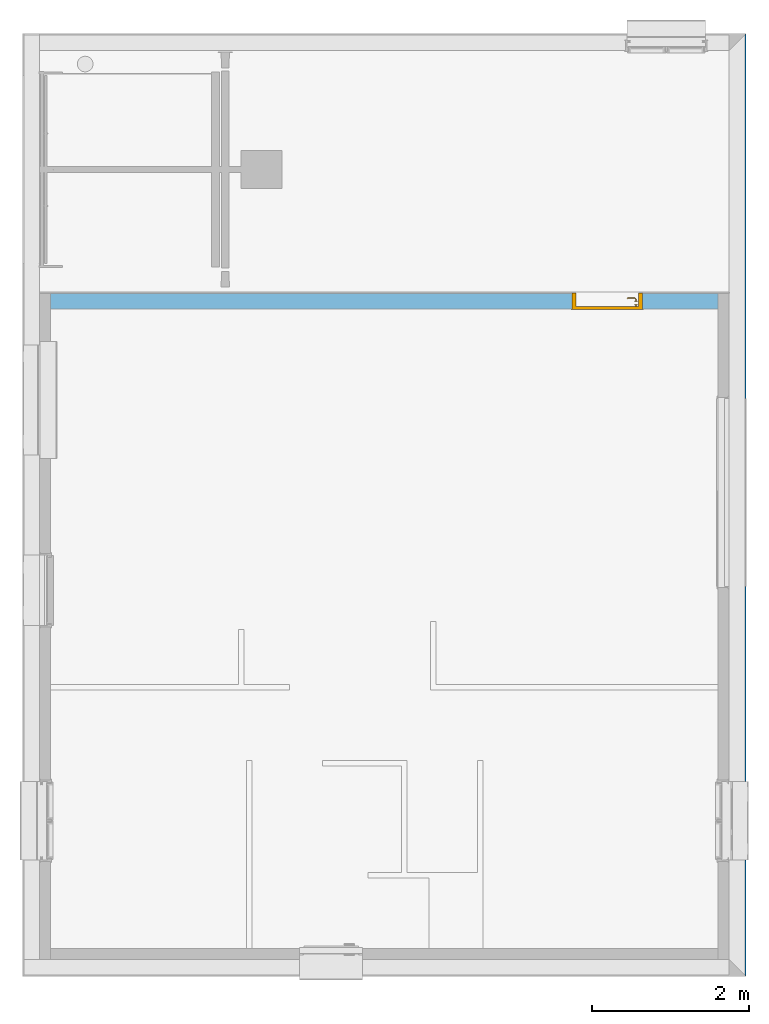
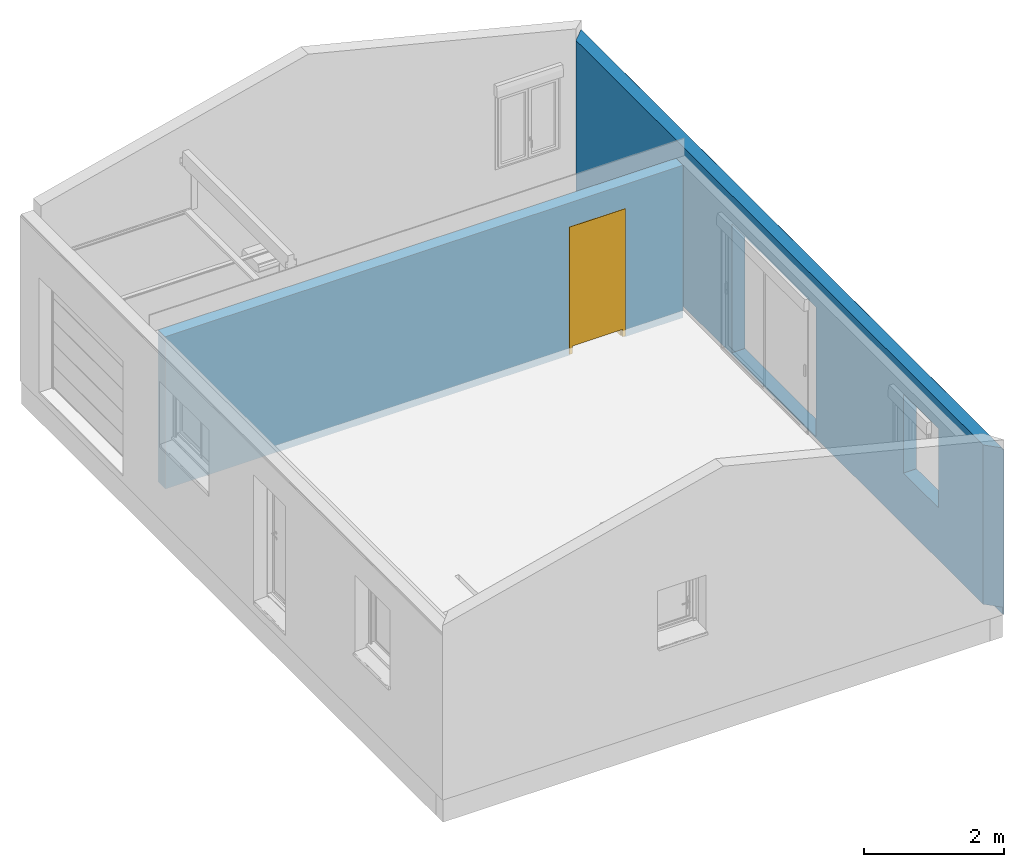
"""IFC2X3 building model written with IfcOpenShell, lengths in metres."""

import ifcopenshell
import ifcopenshell.guid

model = None  # the IFC model being written
_history = None  # IfcOwnerHistory: only IFC2X3 demands one
_inside = {}  # id of a spatial element -> (the spatial element, [elements in it])
_under = {}  # id of a project, library or spatial element -> (it, [spatial elements below it])
_declared = {}  # id of a project -> (the project, [libraries it declares])
_typed = {}  # id of a type object -> (the type object, [elements of that type])
_made_of = {}  # id of a material, layer set ... -> (it, [elements and type objects made of it])


def new_model(schema):
    """Start an empty IFC model of exactly this schema.

    Asked for "IFC4X3", IfcOpenShell would pick the latest addendum, in which some entities
    have other attributes; the version numbers below select the first issue.
    IFC2X3 requires an IfcOwnerHistory on every rooted entity: one is made here for all.
    """
    global model, _history
    if schema == "IFC4X3":
        model = ifcopenshell.file(schema_version=(4, 3, 0, 0))
    else:
        model = ifcopenshell.file(schema=schema)
    _inside.clear()
    _under.clear()
    _declared.clear()
    _typed.clear()
    _made_of.clear()
    _history = None
    if model.schema == "IFC2X3":
        org = make("IfcOrganization", Name="unknown")
        user = make(
            "IfcPersonAndOrganization",
            ThePerson=make("IfcPerson", FamilyName="unknown"),
            TheOrganization=org,
        )
        app = make(
            "IfcApplication",
            ApplicationDeveloper=org,
            Version="unknown",
            ApplicationFullName="unknown",
            ApplicationIdentifier="unknown",
        )
        _history = make(
            "IfcOwnerHistory",
            OwningUser=user,
            OwningApplication=app,
            ChangeAction="ADDED",
            CreationDate=0,
        )
    return model


def make(cls, **values):
    """One entity of the class cls with the attributes given. An attribute that is None is left unset."""
    return model.create_entity(
        cls, **{name: value for name, value in values.items() if value is not None}
    )


def entity(cls, *values):
    """Any entity or typed value of the class cls, its attributes in the order of the schema. None: left unset."""
    e = model.create_entity(cls)
    for i, value in enumerate(values):
        if value is not None:
            e[i] = value
    return e


def rooted(cls, **values):
    """An entity with a GlobalId (a new one), such as an element, a storey or a relation."""
    return make(cls, GlobalId=ifcopenshell.guid.new(), OwnerHistory=_history, **values)


def si_unit(unit_type, name, prefix=None):
    """IfcSIUnit, for example si_unit("LENGTHUNIT", "METRE", prefix="MILLI")."""
    return make("IfcSIUnit", UnitType=unit_type, Prefix=prefix, Name=name)


def converted_unit(unit_type, name, factor, base, dimensions=None, offset=None):
    """IfcConversionBasedUnit, such as the inch: factor (a typed value) times the base unit."""
    return make(
        "IfcConversionBasedUnit"
        if offset is None
        else "IfcConversionBasedUnitWithOffset",
        ConversionOffset=offset,
        Dimensions=None
        if dimensions is None
        else entity("IfcDimensionalExponents", *dimensions),
        UnitType=unit_type,
        Name=name,
        ConversionFactor=make(
            "IfcMeasureWithUnit", ValueComponent=factor, UnitComponent=base
        ),
    )


def derived_unit(unit_type, elements):
    """IfcDerivedUnit: a product of units, each with its exponent."""
    return make(
        "IfcDerivedUnit",
        Elements=[
            make("IfcDerivedUnitElement", Unit=unit, Exponent=power)
            for unit, power in elements
        ],
        UnitType=unit_type,
    )


def assignment(units):
    """IfcUnitAssignment: the units of a project."""
    return None if units is None else make("IfcUnitAssignment", Units=units)


def point(xyz):
    """IfcCartesianPoint."""
    return None if xyz is None else make("IfcCartesianPoint", Coordinates=xyz)


def direction(xyz):
    """IfcDirection."""
    return None if xyz is None else make("IfcDirection", DirectionRatios=xyz)


def frame(location, z_axis=None, x_axis=None):
    """IfcAxis2Placement3D, a coordinate frame: its origin and axes. An axis left out is left unset."""
    return make(
        "IfcAxis2Placement3D",
        Location=point(location),
        Axis=direction(z_axis),
        RefDirection=direction(x_axis),
    )


def frame_2d(location, x_axis=None):
    """IfcAxis2Placement2D, a coordinate frame in the plane: its origin and x axis."""
    return make(
        "IfcAxis2Placement2D", Location=point(location), RefDirection=direction(x_axis)
    )


def origin():
    """The frame at (0, 0, 0) with its axes left unset."""
    return frame((0.0, 0.0, 0.0))


def place(relative_to, where):
    """IfcLocalPlacement: puts the frame where relative to a parent placement (None: the world)."""
    return make(
        "IfcLocalPlacement", PlacementRelTo=relative_to, RelativePlacement=where
    )


def context(
    kind, dimensions, precision=None, world=None, true_north=None, identifier=None
):
    """IfcGeometricRepresentationContext, for example the 3D "Model" context."""
    return make(
        "IfcGeometricRepresentationContext",
        ContextIdentifier=identifier,
        ContextType=kind,
        CoordinateSpaceDimension=dimensions,
        Precision=precision,
        WorldCoordinateSystem=world,
        TrueNorth=true_north,
    )


def subcontext(parent, identifier, kind, view, scale=None):
    """IfcGeometricRepresentationSubContext, for example "Body" below "Model"."""
    return make(
        "IfcGeometricRepresentationSubContext",
        ContextIdentifier=identifier,
        ContextType=kind,
        ParentContext=parent,
        TargetScale=scale,
        TargetView=view,
    )


def project(units=None, contexts=None):
    """IfcProject with its units and contexts."""
    return rooted(
        "IfcProject",
        Name="project",
        RepresentationContexts=contexts,
        UnitsInContext=assignment(units),
    )


def spatial(cls, under=None, at=None, **own):
    """A site, building, storey or space (cls), placed at a placement, below another one or the project."""
    s = rooted(cls, ObjectPlacement=at, **own)
    if under is not None:
        _under.setdefault(under.id(), (under, []))[1].append(s)
    return s


def profile(cls, at=None, kind="AREA", **sizes):
    """A parametric profile (cls). Its sizes go by their IFC names, for example OverallWidth=200.0."""
    return make(cls, ProfileType=kind, Position=at, **sizes)


def rectangle(**sizes):
    """IfcRectangleProfileDef."""
    return profile("IfcRectangleProfileDef", **sizes)


def extrude(swept, where, along, depth):
    """IfcExtrudedAreaSolid: the profile swept, set in the frame where, extruded along a direction by depth."""
    return make(
        "IfcExtrudedAreaSolid",
        SweptArea=swept,
        Position=where,
        ExtrudedDirection=direction(along),
        Depth=depth,
    )


def faces_of(points, faces, orient=None, outer=None):
    """IfcFace entities. A face is a list of loops; a loop is a list of indices into points, from 0.

    orient and outer hold one flag for each loop. By default every Orientation is true, the
    first loop of a face is its IfcFaceOuterBound and the others are IfcFaceBound.
    """
    made = []
    for i, loops in enumerate(faces):
        bounds = []
        for j, loop in enumerate(loops):
            is_outer = j == 0 if outer is None else outer[i][j]
            bounds.append(
                make(
                    "IfcFaceOuterBound" if is_outer else "IfcFaceBound",
                    Bound=make("IfcPolyLoop", Polygon=[points[k] for k in loop]),
                    Orientation=True if orient is None else orient[i][j],
                )
            )
        made.append(make("IfcFace", Bounds=bounds))
    return made


def faceted_brep(points, faces, orient=None, outer=None, voids=None):
    """IfcFacetedBrep: a solid bounded by flat faces; with voids (closed shells), ...WithVoids."""
    shared = [point(p) for p in points]
    hull = make("IfcClosedShell", CfsFaces=faces_of(shared, faces, orient, outer))
    if voids is None:
        return make("IfcFacetedBrep", Outer=hull)
    return make(
        "IfcFacetedBrepWithVoids",
        Outer=hull,
        Voids=[
            make(cls, CfsFaces=faces_of(shared, fs, o, b)) for cls, fs, o, b in voids
        ],
    )


def shape(context_of_items, identifier, shape_type, items):
    """IfcShapeRepresentation: the items that make up one representation, for example the "Body"."""
    return make(
        "IfcShapeRepresentation",
        ContextOfItems=context_of_items,
        RepresentationIdentifier=identifier,
        RepresentationType=shape_type,
        Items=items,
    )


def source(mapping_origin, context_of_items, identifier, shape_type, items):
    """IfcRepresentationMap: a shape defined once, which mapped items show again and again."""
    return make(
        "IfcRepresentationMap",
        MappingOrigin=mapping_origin,
        MappedRepresentation=shape(context_of_items, identifier, shape_type, items),
    )


def transform(
    local_origin,
    x_axis=None,
    y_axis=None,
    z_axis=None,
    scale=None,
    scale2=None,
    scale3=None,
    uniform=True,
):
    """IfcCartesianTransformationOperator3D, or its non-uniform kind. x_axis, y_axis, z_axis: its Axis1, 2, 3."""
    if uniform:
        return make(
            "IfcCartesianTransformationOperator3D",
            Axis1=direction(x_axis),
            Axis2=direction(y_axis),
            LocalOrigin=point(local_origin),
            Scale=scale,
            Axis3=direction(z_axis),
        )
    return make(
        "IfcCartesianTransformationOperator3DnonUniform",
        Axis1=direction(x_axis),
        Axis2=direction(y_axis),
        LocalOrigin=point(local_origin),
        Scale=scale,
        Axis3=direction(z_axis),
        Scale2=scale2,
        Scale3=scale3,
    )


def mapped(mapping_source, mapping_target):
    """IfcMappedItem: shows the shape of a source again, moved by a transform."""
    return make(
        "IfcMappedItem", MappingSource=mapping_source, MappingTarget=mapping_target
    )


def material(Name=None, Category=None):
    """IfcMaterial."""
    return make("IfcMaterial", Name=Name, Category=Category)


def material_list(materials):
    """IfcMaterialList."""
    return make("IfcMaterialList", Materials=materials)


def layer(
    of_material, thickness, ventilated=None, Name=None, Category=None, Priority=None
):
    """IfcMaterialLayer: one layer of a wall or slab, of a material (None: an air gap)."""
    return make(
        "IfcMaterialLayer",
        Material=of_material,
        LayerThickness=thickness,
        IsVentilated=ventilated,
        Name=Name,
        Category=Category,
        Priority=Priority,
    )


def layer_set(layers, Name=None):
    """IfcMaterialLayerSet."""
    return make("IfcMaterialLayerSet", MaterialLayers=layers, LayerSetName=Name)


def layer_usage(for_layer_set, set_direction, sense, offset, extent=None):
    """IfcMaterialLayerSetUsage: how a layer set lies in its element."""
    return make(
        "IfcMaterialLayerSetUsage",
        ForLayerSet=for_layer_set,
        LayerSetDirection=set_direction,
        DirectionSense=sense,
        OffsetFromReferenceLine=offset,
        ReferenceExtent=extent,
    )


def made_of(thing, what):
    """Note that an element or type object is made of a material, layer set ...; save() writes the relation."""
    if what is not None:
        _made_of.setdefault(what.id(), (what, []))[1].append(thing)
    return thing


def type_object(cls, material=None, **own):
    """A type object (cls), such as IfcWallType, which elements share."""
    return made_of(rooted(cls, **own), material)


def type_shapes(of_type, sources):
    """Give a type object the sources (RepresentationMaps) that its elements show as mapped items."""
    of_type.RepresentationMaps = sources


def element(
    cls,
    number,
    at=None,
    inside=None,
    cuts=None,
    type_object=None,
    material=None,
    context=None,
    identifier="Body",
    shape_type=None,
    held_by="IfcProductDefinitionShape",
    body=None,
    shapes=None,
    **own,
):
    """One element of the class cls, such as IfcWall. Its Tag is "e" and its number.

    at: its placement. inside: the storey or other place that contains it. cuts: it is an
    opening in that element (IfcRelVoidsElement). A single representation is given by context,
    identifier, shape_type and body (its items); several are given by shapes. held_by: the class
    of the entity that holds the representations. save() writes the other relations.
    """
    e = rooted(cls, Tag="e%d" % number, ObjectPlacement=at, **own)
    if body is not None:
        shapes = [shape(context, identifier, shape_type, body)]
    if shapes is not None:
        e.Representation = make(held_by, Representations=shapes)
    if inside is not None:
        _inside.setdefault(inside.id(), (inside, []))[1].append(e)
    if cuts is not None:
        rooted(
            "IfcRelVoidsElement", RelatingBuildingElement=cuts, RelatedOpeningElement=e
        )
    if type_object is not None:
        _typed.setdefault(type_object.id(), (type_object, []))[1].append(e)
    return made_of(e, material)


def fill(opening, filler):
    """IfcRelFillsElement: the door or window that sits in an opening."""
    return rooted(
        "IfcRelFillsElement",
        RelatingOpeningElement=opening,
        RelatedBuildingElement=filler,
    )


def aggregate(whole, parts):
    """IfcRelAggregates: a whole, such as a stair, and the parts it consists of."""
    return rooted("IfcRelAggregates", RelatingObject=whole, RelatedObjects=parts)


def save(model, path):
    """Write the relations noted so far, then the file.

    IfcRelAggregates (storeys below a building ...), IfcRelContainedInSpatialStructure (elements
    in a storey), IfcRelDefinesByType, IfcRelAssociatesMaterial and IfcRelDeclares: one each for
    every whole, place, type object, material and project.
    """
    for whole, parts in _under.values():
        aggregate(whole, parts)
    for where, things in _inside.values():
        rooted(
            "IfcRelContainedInSpatialStructure",
            RelatedElements=things,
            RelatingStructure=where,
        )
    for kind, things in _typed.values():
        rooted("IfcRelDefinesByType", RelatedObjects=things, RelatingType=kind)
    for what, things in _made_of.values():
        rooted("IfcRelAssociatesMaterial", RelatedObjects=things, RelatingMaterial=what)
    for by, libraries in _declared.values():
        rooted("IfcRelDeclares", RelatingContext=by, RelatedDefinitions=libraries)
    model.write(path)


model = new_model("IFC2X3")

# Units and contexts
model_context = context("Model", 3, precision=1e-05, world=origin(), true_north=direction((6.123031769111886e-17, 1.0)))
body_context = subcontext(model_context, "Body", "Model", "MODEL_VIEW")
ifc_project = project(units=[si_unit("LENGTHUNIT", "METRE"), si_unit("AREAUNIT", "SQUARE_METRE"), si_unit("VOLUMEUNIT", "CUBIC_METRE"), converted_unit("PLANEANGLEUNIT", "DEGREE", entity("IfcRatioMeasure", 0.017453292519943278), si_unit("PLANEANGLEUNIT", "RADIAN"), dimensions=[0, 0, 0, 0, 0, 0, 0]), si_unit("MASSUNIT", "GRAM", prefix="KILO"), derived_unit("MASSDENSITYUNIT", [(si_unit("MASSUNIT", "GRAM", prefix="KILO"), 1), (si_unit("LENGTHUNIT", "METRE"), -3)]), derived_unit("IONCONCENTRATIONUNIT", [(si_unit("MASSUNIT", "GRAM", prefix="KILO"), 1), (si_unit("LENGTHUNIT", "METRE"), -3)]), derived_unit("MOMENTOFINERTIAUNIT", [(si_unit("LENGTHUNIT", "METRE"), 4)]), si_unit("TIMEUNIT", "SECOND"), si_unit("FREQUENCYUNIT", "HERTZ"), si_unit("THERMODYNAMICTEMPERATUREUNIT", "DEGREE_CELSIUS"), derived_unit("THERMALTRANSMITTANCEUNIT", [(si_unit("MASSUNIT", "GRAM", prefix="KILO"), 1), (si_unit("THERMODYNAMICTEMPERATUREUNIT", "KELVIN"), -1), (si_unit("TIMEUNIT", "SECOND"), -3)]), derived_unit("THERMALCONDUCTANCEUNIT", [(si_unit("MASSUNIT", "GRAM", prefix="KILO"), 1), (si_unit("THERMODYNAMICTEMPERATUREUNIT", "KELVIN"), -1), (si_unit("TIMEUNIT", "SECOND"), -3), (si_unit("LENGTHUNIT", "METRE"), 1)]), derived_unit("VOLUMETRICFLOWRATEUNIT", [(si_unit("LENGTHUNIT", "METRE"), 3), (si_unit("TIMEUNIT", "SECOND"), -1)]), derived_unit("MASSFLOWRATEUNIT", [(si_unit("MASSUNIT", "GRAM", prefix="KILO"), 1), (si_unit("TIMEUNIT", "SECOND"), -1)]), derived_unit("ROTATIONALFREQUENCYUNIT", [(si_unit("TIMEUNIT", "SECOND"), -1)]), si_unit("ELECTRICCURRENTUNIT", "AMPERE"), si_unit("ELECTRICVOLTAGEUNIT", "VOLT"), si_unit("POWERUNIT", "WATT"), si_unit("FORCEUNIT", "NEWTON", prefix="KILO"), si_unit("ILLUMINANCEUNIT", "LUX"), si_unit("LUMINOUSFLUXUNIT", "LUMEN"), si_unit("LUMINOUSINTENSITYUNIT", "CANDELA"), derived_unit("USERDEFINED", [(si_unit("MASSUNIT", "GRAM", prefix="KILO"), -1), (si_unit("LENGTHUNIT", "METRE"), -2), (si_unit("TIMEUNIT", "SECOND"), 3), (si_unit("LUMINOUSFLUXUNIT", "LUMEN"), 1)]), derived_unit("USERDEFINED", [(si_unit("MASSUNIT", "GRAM", prefix="KILO"), 1), (si_unit("TIMEUNIT", "SECOND"), -3), (si_unit("LENGTHUNIT", "METRE"), 3), (si_unit("ELECTRICCURRENTUNIT", "AMPERE"), -2)]), derived_unit("SOUNDPOWERUNIT", [(si_unit("MASSUNIT", "GRAM", prefix="KILO"), 1), (si_unit("TIMEUNIT", "SECOND"), -3), (si_unit("LENGTHUNIT", "METRE"), 2)]), derived_unit("SOUNDPRESSUREUNIT", [(si_unit("MASSUNIT", "GRAM", prefix="KILO"), 1), (si_unit("LENGTHUNIT", "METRE"), -1), (si_unit("TIMEUNIT", "SECOND"), -2)]), derived_unit("LINEARVELOCITYUNIT", [(si_unit("LENGTHUNIT", "METRE"), 1), (si_unit("TIMEUNIT", "SECOND"), -1)]), si_unit("PRESSUREUNIT", "PASCAL"), derived_unit("USERDEFINED", [(si_unit("MASSUNIT", "GRAM", prefix="KILO"), 1), (si_unit("LENGTHUNIT", "METRE"), -2), (si_unit("TIMEUNIT", "SECOND"), -2)]), derived_unit("LINEARFORCEUNIT", [(si_unit("MASSUNIT", "GRAM", prefix="KILO"), 1), (si_unit("TIMEUNIT", "SECOND"), -2)]), derived_unit("PLANARFORCEUNIT", [(si_unit("MASSUNIT", "GRAM", prefix="KILO"), 1), (si_unit("LENGTHUNIT", "METRE"), -1), (si_unit("TIMEUNIT", "SECOND"), -2)]), derived_unit("SPECIFICHEATCAPACITYUNIT", [(si_unit("THERMODYNAMICTEMPERATUREUNIT", "KELVIN"), -1), (si_unit("LENGTHUNIT", "METRE"), 2), (si_unit("TIMEUNIT", "SECOND"), -2)]), derived_unit("HEATINGVALUEUNIT", [(si_unit("LENGTHUNIT", "METRE"), 2), (si_unit("TIMEUNIT", "SECOND"), -2)]), derived_unit("VAPORPERMEABILITYUNIT", [(si_unit("LENGTHUNIT", "METRE"), -1), (si_unit("TIMEUNIT", "SECOND"), 1)]), derived_unit("DYNAMICVISCOSITYUNIT", [(si_unit("MASSUNIT", "GRAM", prefix="KILO"), 1), (si_unit("TIMEUNIT", "SECOND"), -1), (si_unit("LENGTHUNIT", "METRE"), -1)]), derived_unit("THERMALEXPANSIONCOEFFICIENTUNIT", [(si_unit("THERMODYNAMICTEMPERATUREUNIT", "KELVIN"), -1)]), derived_unit("MODULUSOFELASTICITYUNIT", [(si_unit("MASSUNIT", "GRAM", prefix="KILO"), 1), (si_unit("LENGTHUNIT", "METRE"), -1), (si_unit("TIMEUNIT", "SECOND"), -2)]), derived_unit("ISOTHERMALMOISTURECAPACITYUNIT", [(si_unit("LENGTHUNIT", "METRE"), 3), (si_unit("MASSUNIT", "GRAM", prefix="KILO"), -1)]), derived_unit("MOISTUREDIFFUSIVITYUNIT", [(si_unit("TIMEUNIT", "SECOND"), -1), (si_unit("LENGTHUNIT", "METRE"), 2)])], contexts=[model_context])

# Site, building, storey
site_placement = place(None, frame((1.2553507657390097, -0.6266432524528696, -1.0397761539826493), z_axis=(0.0, 0.0, 1.0), x_axis=(-1.0, 0.0, 0.0)))
site = spatial("IfcSite", under=ifc_project, at=site_placement, Name="Default", CompositionType="ELEMENT")
building_placement = place(site_placement, origin())
building = spatial("IfcBuilding", under=site, at=building_placement, Name="MAISON D'HABITATION", CompositionType="ELEMENT")
storey_1_placement = place(building_placement, frame((0.0, 0.0, 0.38977615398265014)))
storey_1 = spatial("IfcBuildingStorey", under=building, at=storey_1_placement, Name="Niveau dessus semelle filante", CompositionType="ELEMENT", Elevation=0.38977615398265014)

# Wall
ifc_material_1 = material(Name="Enduit gratté")
ifc_layer_1 = layer(ifc_material_1, 0.018)
ifc_material_2 = material(Name="Agglo creux, parpaing")
ifc_layer_2 = layer(ifc_material_2, 0.2)
ifc_layer_set_1 = layer_set([ifc_layer_1, ifc_layer_2], Name="Mur de base:parpaing+enduit 18cm")
wall_type_1 = type_object("IfcWallType", Name="Mur de base:parpaing+enduit 18cm", PredefinedType="STANDARD", material=ifc_layer_set_1)
wall_1_placement = place(storey_1_placement, frame((-4.788866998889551, -8.681816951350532, 0.39999999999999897), z_axis=(0.0, 0.0, 1.0), x_axis=(0.0, 1.0, 0.0)))
element("IfcWall", 1, at=wall_1_placement, inside=storey_1, type_object=wall_type_1, Name="Mur de base:parpaing+enduit 18cm", ObjectType="Mur de base:parpaing+enduit 18cm", context=body_context, shape_type="Brep", body=[
    faceted_brep([(0.21800000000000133, -0.10900000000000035, 0.12000000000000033), (3.2999999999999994, -0.10900000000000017, 0.12000000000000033), (3.3179999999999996, -0.10900000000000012, 0.12000000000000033), (11.818000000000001, -0.10900000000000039, 0.12000000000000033), (11.818000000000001, -0.10900000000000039, 2.889999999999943), (0.21800000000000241, -0.10900000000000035, 2.889999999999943), (4.658000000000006, -0.1090000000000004, 0.2500000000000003), (4.658000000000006, -0.1090000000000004, 2.3999999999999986), (7.058000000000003, -0.10900000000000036, 2.3999999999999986), (7.058000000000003, -0.10900000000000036, 0.2500000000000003), (7.058000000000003, -0.10900000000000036, 0.1499999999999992), (4.658000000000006, -0.1090000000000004, 0.1499999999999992), (9.548000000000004, -0.10900000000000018, 2.3999999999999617), (10.548000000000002, -0.10899999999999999, 2.3999999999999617), (10.548000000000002, -0.10899999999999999, 1.1244999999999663), (10.548000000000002, -0.10899999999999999, 1.0244999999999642), (9.548000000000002, -0.10900000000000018, 1.0244999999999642), (9.548000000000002, -0.10900000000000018, 1.1244999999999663), (12.036000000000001, 0.10900000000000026, 2.866499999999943), (12.036000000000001, 0.10900000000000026, 0.0), (0.0, 0.10900000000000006, 0.0), (0.0, 0.10900000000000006, 2.866499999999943), (7.058000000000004, 0.10899999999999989, 2.3999999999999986), (4.658000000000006, 0.10899999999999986, 2.3999999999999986), (4.658000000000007, 0.10899999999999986, 0.1499999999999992), (7.058000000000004, 0.10899999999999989, 0.1499999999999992), (10.548000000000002, 0.10899999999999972, 2.3999999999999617), (9.548000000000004, 0.10900000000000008, 2.399999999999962), (9.548000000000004, 0.10900000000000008, 1.0244999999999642), (10.548000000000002, 0.10899999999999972, 1.0244999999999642), (12.018, 0.09099999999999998, 0.12000000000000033), (12.018, 0.09099999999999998, 0.0), (12.018, 0.09099999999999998, 2.866499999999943), (12.018, 0.09099999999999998, 2.889999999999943), (0.018000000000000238, 0.09099999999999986, 0.12000000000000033), (0.017999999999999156, 0.09099999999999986, 0.0), (0.018000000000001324, 0.09099999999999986, 2.889999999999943), (0.017999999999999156, 0.09100000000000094, 2.866499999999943)], [[[0, 1, 2, 3, 4, 5], [6, 7, 8, 9, 10, 11], [12, 13, 14, 15, 16, 17]], [[18, 19, 20, 21], [22, 23, 24, 25], [26, 27, 28, 29]], [[4, 3, 30, 31, 19, 18, 32, 33]], [[7, 23, 22, 8]], [[23, 7, 6, 11, 24]], [[8, 22, 25, 10, 9]], [[24, 11, 10, 25]], [[26, 13, 12, 27]], [[27, 12, 17, 16, 28]], [[13, 26, 29, 15, 14]], [[28, 16, 15, 29]], [[3, 2, 1, 0, 34, 30]], [[30, 34, 35, 31]], [[0, 5, 36, 37, 21, 20, 35, 34]], [[20, 19, 31, 35]], [[5, 4, 33, 36]], [[36, 33, 32, 37]], [[32, 18, 21, 37]]]),
])

# Wall, opening
ifc_material_3 = material(Name="Isolation 0.18m")
ifc_layer_3 = layer(ifc_material_3, 0.18)
ifc_material_4 = material(Name="Plaque de mur de gypse")
ifc_layer_4 = layer(ifc_material_4, 0.013)
ifc_material_5 = material(Name="Peinture")
ifc_layer_5 = layer(ifc_material_5, 0.007)
ifc_layer_set_2 = layer_set([ifc_layer_3, ifc_layer_4, ifc_layer_5], Name="Mur de base:isolation+placo+peinture 20cm")
ifc_layer_usage = layer_usage(ifc_layer_set_2, "AXIS2", "POSITIVE", -0.1)
wall_type_2 = type_object("IfcWallType", Name="Mur de base:isolation+placo+peinture 20cm", PredefinedType="STANDARD", material=ifc_layer_set_2)
wall_2_placement = place(storey_1_placement, frame((-4.539866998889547, -5.263816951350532, 0.5199999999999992)))
wall_2 = element("IfcWallStandardCase", 2, at=wall_2_placement, inside=storey_1, type_object=wall_type_2, material=ifc_layer_usage, Name="Mur de base:isolation+placo+peinture 20cm", ObjectType="Mur de base:isolation+placo+peinture 20cm", context=body_context, shape_type="SweptSolid", body=[
    extrude(rectangle(XDim=8.519999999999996, YDim=0.2, at=frame_2d((4.259999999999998, 2.7755575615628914e-17), x_axis=(1.0, 0.0))), origin(), (0.0, 0.0, 1.0), 2.6499999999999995),
])
opening_placement = place(wall_2_placement, frame((0.9650000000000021, -0.1000000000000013, 0.0)))
opening = element("IfcOpeningElement", 3, at=opening_placement, cuts=wall_2, Name="porte intérieur Simple reservation 13 cm:80 x 204:1", ObjectType="Opening", context=body_context, shape_type="SweptSolid", body=[
    extrude(rectangle(XDim=2.224999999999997, YDim=0.8999999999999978, at=frame_2d((1.1124999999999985, 0.4499999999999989), x_axis=(1.0, 0.0))), frame((0.0, 0.0, 0.0), z_axis=(0.0, 1.0, 0.0), x_axis=(0.0, 0.0, 1.0)), (0.0, 0.0, 1.0), 0.2),
])

# Storey
storey_2_placement = place(building_placement, frame((0.0, 0.0, 1.0397761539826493)))
storey_2 = spatial("IfcBuildingStorey", under=building, at=storey_2_placement, Name="site", CompositionType="ELEMENT", Elevation=1.0397761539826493)

# Door
ifc_material_6 = material(Name="Poignée Porte")
ifc_material_7 = material(Name="Dormants Portes")
ifc_material_8 = material(Name="Panneaux Portes")
ifc_material_list = material_list([ifc_material_6, ifc_material_7, ifc_material_8])
door_style = type_object("IfcDoorStyle", Name="porte intérieur Simple reservation 13 cm:80 x 204", ConstructionType="NOTDEFINED", OperationType="NOTDEFINED", ParameterTakesPrecedence=False, Sizeable=False, material=ifc_material_list)
shared_shape = source(origin(), body_context, "Body", "Brep", [
    faceted_brep([(0.8129747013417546, 0.10200000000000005, 1.0422195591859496), (0.8170252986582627, 0.10200000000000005, 1.0422195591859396), (0.8210000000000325, 0.10200000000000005, 1.0429999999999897), (0.8210000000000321, 0.10200000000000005, 1.0569999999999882), (0.8170252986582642, 0.10200000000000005, 1.0577804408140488), (0.812974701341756, 0.10200000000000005, 1.0577804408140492), (0.8089999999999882, 0.10200000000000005, 1.0569999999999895), (0.8089999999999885, 0.10200000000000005, 1.0430000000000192), (0.8089999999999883, 0.12448520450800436, 1.0569999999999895), (0.8089999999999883, 0.12448520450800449, 1.0430000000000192), (0.8129747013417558, 0.12613157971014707, 1.0577804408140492), (0.8170252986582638, 0.12780939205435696, 1.0577804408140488), (0.80083890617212, 0.14399578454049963, 1.0577804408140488), (0.7991610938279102, 0.1399451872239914, 1.0577804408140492), (0.7157931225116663, 0.1399451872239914, 1.0577804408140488), (0.7141153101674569, 0.14399578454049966, 1.0577804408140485), (0.7064510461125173, 0.1363315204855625, 1.0577804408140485), (0.7093152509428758, 0.13346731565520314, 1.0577804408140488), (0.8210000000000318, 0.1294557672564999, 1.0569999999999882), (0.8210000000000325, 0.12945576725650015, 1.0429999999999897), (0.8170252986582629, 0.12780939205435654, 1.0422195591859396), (0.8129747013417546, 0.12613157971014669, 1.0422195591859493), (0.7991610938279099, 0.13994518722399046, 1.0422195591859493), (0.8008389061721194, 0.1439957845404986, 1.0422195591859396), (0.7141153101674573, 0.1439957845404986, 1.0422195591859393), (0.7157931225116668, 0.13994518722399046, 1.042219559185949), (0.7093152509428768, 0.13346731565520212, 1.0422195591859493), (0.7064510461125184, 0.13633152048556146, 1.0422195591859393), (0.7975147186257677, 0.13597048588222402, 1.0430000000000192), (0.7975147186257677, 0.1359704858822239, 1.0569999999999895), (0.8024852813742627, 0.14797048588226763, 1.0569999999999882), (0.8024852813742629, 0.14797048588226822, 1.0429999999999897), (0.7574771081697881, 0.13597048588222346, 1.056999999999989), (0.7174394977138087, 0.1359704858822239, 1.056999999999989), (0.7174394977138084, 0.13597048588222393, 1.0430000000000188), (0.7574770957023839, 0.13597048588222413, 1.043000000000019), (0.7574771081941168, 0.14212492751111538, 1.0578781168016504), (0.7523994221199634, 0.14797048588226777, 1.0569999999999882), (0.7124689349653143, 0.14797048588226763, 1.056999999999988), (0.7625547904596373, 0.14797048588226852, 1.0429999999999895), (0.712468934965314, 0.14797048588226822, 1.0429999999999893), (0.7574771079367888, 0.14212492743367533, 1.0421218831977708), (0.703640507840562, 0.13914205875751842, 1.0569999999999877), (0.7036405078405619, 0.13914205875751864, 1.0429999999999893), (0.7121257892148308, 0.13065677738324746, 1.0430000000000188), (0.712125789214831, 0.13065677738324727, 1.056999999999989)], [[[0, 1, 2, 3, 4, 5, 6, 7]], [[8, 9, 7, 6]], [[5, 10, 8, 6]], [[5, 4, 11, 12, 13, 10]], [[14, 15, 16, 17]], [[3, 18, 11, 4]], [[18, 3, 2, 19]], [[2, 1, 20, 19]], [[1, 0, 21, 22, 23, 20]], [[24, 25, 26, 27]], [[0, 7, 9, 21]], [[28, 9, 8, 29]], [[8, 10, 13, 29]], [[18, 30, 12, 11]], [[31, 30, 18, 19]], [[19, 20, 23, 31]], [[21, 9, 28, 22]], [[28, 29, 32, 33, 34, 35]], [[36, 32, 13]], [[37, 38, 15]], [[37, 12, 30]], [[36, 12, 37]], [[14, 32, 36]], [[36, 15, 14]], [[29, 13, 32]], [[32, 14, 33]], [[12, 36, 13]], [[15, 36, 37]], [[30, 31, 39, 40, 38, 37]], [[23, 41, 39]], [[24, 39, 41]], [[39, 31, 23]], [[39, 24, 40]], [[22, 35, 41]], [[41, 23, 22]], [[41, 35, 25]], [[35, 22, 28]], [[34, 25, 35]], [[24, 41, 25]], [[17, 16, 42, 43, 27, 26, 44, 45]], [[44, 34, 33, 45]], [[33, 14, 17, 45]], [[15, 38, 42, 16]], [[43, 42, 38, 40]], [[24, 27, 43, 40]], [[34, 44, 26, 25]]]),
    faceted_brep([(0.8129747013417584, 0.052000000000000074, 1.057780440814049), (0.8170252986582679, 0.052000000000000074, 1.0577804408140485), (0.8210000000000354, 0.052000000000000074, 1.0569999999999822), (0.8210000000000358, 0.052000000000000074, 1.0429999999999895), (0.8170252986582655, 0.052000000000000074, 1.0422195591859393), (0.8129747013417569, 0.052000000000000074, 1.0422195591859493), (0.8089999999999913, 0.052000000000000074, 1.0430000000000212), (0.8089999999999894, 0.052000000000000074, 1.0569999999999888), (0.8170252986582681, 0.0259954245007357, 1.0577804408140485), (0.821000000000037, 0.024349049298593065, 1.0569999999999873), (0.8129747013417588, 0.027673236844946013, 1.057780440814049), (0.7992986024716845, 0.013997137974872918, 1.057780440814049), (0.8009764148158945, 0.009946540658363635, 1.0577804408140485), (0.7141424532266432, 0.009946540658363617, 1.0577804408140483), (0.7158202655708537, 0.013997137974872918, 1.0577804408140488), (0.7093423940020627, 0.020475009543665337, 1.0577804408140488), (0.7064781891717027, 0.01761080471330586, 1.0577804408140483), (0.8089999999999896, 0.029319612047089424, 1.0569999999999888), (0.8089999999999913, 0.029319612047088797, 1.0430000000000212), (0.8129747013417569, 0.027673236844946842, 1.0422195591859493), (0.8170252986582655, 0.025995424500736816, 1.0422195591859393), (0.8009764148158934, 0.009946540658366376, 1.0422195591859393), (0.7992986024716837, 0.013997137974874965, 1.0422195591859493), (0.7158202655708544, 0.013997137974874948, 1.042219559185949), (0.7141424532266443, 0.009946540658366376, 1.0422195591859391), (0.7064781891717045, 0.017610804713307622, 1.0422195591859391), (0.7093423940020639, 0.020475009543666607, 1.042219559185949), (0.8210000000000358, 0.024349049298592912, 1.0429999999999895), (0.8026227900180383, 0.005971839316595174, 1.0569999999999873), (0.7976522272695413, 0.01797183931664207, 1.0569999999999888), (0.797652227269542, 0.017971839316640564, 1.0430000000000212), (0.8026227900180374, 0.005971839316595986, 1.0429999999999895), (0.7575594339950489, 0.01181719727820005, 1.0578781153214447), (0.76269230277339, 0.005971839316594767, 1.0569999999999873), (0.7124960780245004, 0.0059718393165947, 1.056999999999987), (0.7575594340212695, 0.017971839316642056, 1.0569999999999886), (0.717466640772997, 0.017971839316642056, 1.0569999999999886), (0.7575594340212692, 0.01797183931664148, 1.0430000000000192), (0.7174666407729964, 0.017971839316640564, 1.043000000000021), (0.7575594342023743, 0.011817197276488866, 1.0421218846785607), (0.7524265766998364, 0.005971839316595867, 1.0429999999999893), (0.7124960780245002, 0.005971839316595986, 1.0429999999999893), (0.7121529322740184, 0.02328554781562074, 1.043000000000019), (0.7036676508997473, 0.014800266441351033, 1.0429999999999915), (0.7036676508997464, 0.014800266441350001, 1.0569999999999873), (0.7121529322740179, 0.02328554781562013, 1.0569999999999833)], [[[0, 1, 2, 3, 4, 5, 6, 7]], [[2, 1, 8, 9]], [[1, 0, 10, 11, 12, 8]], [[13, 14, 15, 16]], [[0, 7, 17, 10]], [[18, 17, 7, 6]], [[5, 19, 18, 6]], [[5, 4, 20, 21, 22, 19]], [[23, 24, 25, 26]], [[3, 27, 20, 4]], [[9, 27, 3, 2]], [[9, 8, 12, 28]], [[10, 17, 29, 11]], [[30, 29, 17, 18]], [[18, 19, 22, 30]], [[20, 27, 31, 21]], [[28, 31, 27, 9]], [[12, 32, 33]], [[13, 33, 32]], [[33, 28, 12]], [[33, 13, 34]], [[11, 35, 32]], [[32, 12, 11]], [[32, 35, 14]], [[35, 11, 29]], [[36, 14, 35]], [[13, 32, 14]], [[30, 37, 38, 36, 35, 29]], [[39, 37, 22]], [[40, 41, 24]], [[40, 21, 31]], [[39, 21, 40]], [[23, 37, 39]], [[39, 24, 23]], [[30, 22, 37]], [[37, 23, 38]], [[21, 39, 22]], [[24, 39, 40]], [[31, 28, 33, 34, 41, 40]], [[42, 26, 25, 43, 44, 16, 15, 45]], [[13, 16, 44, 34]], [[36, 45, 15, 14]], [[42, 45, 36, 38]], [[38, 23, 26, 42]], [[24, 41, 43, 25]], [[44, 43, 41, 34]]]),
    faceted_brep([(0.835000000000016, 0.097, 0.9200000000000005), (0.8350000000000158, 0.097, 1.1299999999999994), (0.8253527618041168, 0.09699999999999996, 1.1339960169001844), (0.8150000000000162, 0.09699999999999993, 1.1353589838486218), (0.8046472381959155, 0.09699999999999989, 1.1339960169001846), (0.7950000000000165, 0.09699999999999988, 1.1299999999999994), (0.7950000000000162, 0.09699999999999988, 0.9199999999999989), (0.8046472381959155, 0.09699999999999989, 0.9160039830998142), (0.8150000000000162, 0.09699999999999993, 0.9146410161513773), (0.8253527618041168, 0.09699999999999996, 0.9160039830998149), (0.8150000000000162, 0.10199999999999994, 1.1353589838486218), (0.8253527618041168, 0.10199999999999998, 1.1339960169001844), (0.8350000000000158, 0.102, 1.1299999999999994), (0.8350000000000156, 0.102, 0.9200000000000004), (0.8253527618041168, 0.10199999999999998, 0.9160039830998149), (0.8150000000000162, 0.10199999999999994, 0.9146410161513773), (0.8046472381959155, 0.10199999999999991, 0.9160039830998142), (0.7950000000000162, 0.10199999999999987, 0.9199999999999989), (0.7950000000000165, 0.10199999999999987, 1.1299999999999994), (0.8046472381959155, 0.10199999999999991, 1.1339960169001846)], [[[0, 1, 2, 3, 4, 5, 6, 7, 8, 9]], [[10, 11, 12, 13, 14, 15, 16, 17, 18, 19]], [[4, 19, 18, 5]], [[3, 10, 19, 4]], [[2, 11, 10, 3]], [[2, 1, 12, 11]], [[12, 1, 0, 13]], [[9, 14, 13, 0]], [[8, 15, 14, 9]], [[7, 16, 15, 8]], [[7, 6, 17, 16]], [[17, 6, 5, 18]]]),
    faceted_brep([(0.8150000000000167, 0.05199999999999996, 0.9146410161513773), (0.8253527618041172, 0.052, 0.916003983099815), (0.8350000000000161, 0.05200000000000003, 0.9200000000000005), (0.835000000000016, 0.05200000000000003, 1.1299999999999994), (0.8253527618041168, 0.052, 1.1339960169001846), (0.8150000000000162, 0.05199999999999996, 1.1353589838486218), (0.8046472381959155, 0.05199999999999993, 1.1339960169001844), (0.7950000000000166, 0.05199999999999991, 1.1299999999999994), (0.7950000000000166, 0.05199999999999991, 0.9199999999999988), (0.8046472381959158, 0.05199999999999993, 0.916003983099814), (0.835000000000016, 0.05700000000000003, 1.1299999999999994), (0.8350000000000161, 0.05700000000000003, 0.9200000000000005), (0.8253527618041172, 0.056999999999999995, 0.916003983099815), (0.8150000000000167, 0.05699999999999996, 0.9146410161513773), (0.8046472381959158, 0.056999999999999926, 0.916003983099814), (0.7950000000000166, 0.056999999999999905, 0.9199999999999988), (0.7950000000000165, 0.056999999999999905, 1.1299999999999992), (0.8046472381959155, 0.056999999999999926, 1.1339960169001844), (0.8150000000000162, 0.05699999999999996, 1.1353589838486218), (0.8253527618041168, 0.056999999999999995, 1.1339960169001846)], [[[0, 1, 2, 3, 4, 5, 6, 7, 8, 9]], [[10, 11, 12, 13, 14, 15, 16, 17, 18, 19]], [[1, 12, 11, 2]], [[0, 13, 12, 1]], [[9, 14, 13, 0]], [[9, 8, 15, 14]], [[15, 8, 7, 16]], [[6, 17, 16, 7]], [[5, 18, 17, 6]], [[4, 19, 18, 5]], [[4, 3, 10, 19]], [[10, 3, 2, 11]]]),
    faceted_brep([(0.9000000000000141, 0.0, 0.01999999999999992), (0.9100000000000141, 0.0, 0.01999999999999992), (0.9100000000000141, -0.007999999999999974, 0.01999999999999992), (0.865000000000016, -0.007999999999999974, 0.01999999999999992), (0.865000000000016, 0.032000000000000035, 0.01999999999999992), (0.8500000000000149, 0.032000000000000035, 0.01999999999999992), (0.8500000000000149, 0.2080000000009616, 0.01999999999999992), (0.9100000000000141, 0.2080000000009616, 0.01999999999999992), (0.9100000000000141, 0.20000000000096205, 0.01999999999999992), (0.9000000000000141, 0.20000000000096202, 0.01999999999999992), (0.900000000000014, 0.20000000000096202, 2.224999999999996), (0.900000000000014, 0.0, 2.224999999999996), (0.9100000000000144, 0.20000000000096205, 2.234999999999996), (-0.009999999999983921, 0.20000000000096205, 2.234999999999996), (-0.009999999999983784, 0.20000000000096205, 0.01999999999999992), (0.0, 0.20000000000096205, 0.01999999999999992), (0.0, 0.20000000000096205, 2.224999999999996), (0.9100000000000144, 0.2080000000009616, 2.234999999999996), (0.850000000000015, 0.2080000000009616, 2.1749999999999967), (0.050000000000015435, 0.2080000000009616, 2.1749999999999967), (0.050000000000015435, 0.2080000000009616, 0.01999999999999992), (-0.009999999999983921, 0.2080000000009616, 0.01999999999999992), (-0.009999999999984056, 0.2080000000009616, 2.234999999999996), (0.850000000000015, 0.032000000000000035, 2.1749999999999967), (0.8650000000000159, 0.032000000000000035, 2.1899999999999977), (0.03500000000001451, 0.032000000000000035, 2.1899999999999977), (0.03500000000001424, 0.032000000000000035, 0.01999999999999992), (0.050000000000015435, 0.032000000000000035, 0.01999999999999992), (0.050000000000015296, 0.032000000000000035, 2.1749999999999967), (0.8650000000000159, -0.007999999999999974, 2.1899999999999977), (0.9100000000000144, -0.007999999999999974, 2.234999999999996), (-0.009999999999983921, -0.007999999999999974, 2.234999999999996), (-0.009999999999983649, -0.007999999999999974, 0.01999999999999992), (0.03500000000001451, -0.007999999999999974, 0.01999999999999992), (0.03500000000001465, -0.007999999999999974, 2.1899999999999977), (0.9100000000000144, 0.0, 2.234999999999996), (0.0, 0.0, 2.224999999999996), (0.0, 0.0, 0.01999999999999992), (-0.009999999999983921, 0.0, 0.01999999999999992), (-0.009999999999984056, 0.0, 2.234999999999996)], [[[0, 1, 2, 3, 4, 5, 6, 7, 8, 9]], [[9, 10, 11, 0]], [[8, 12, 13, 14, 15, 16, 10, 9]], [[7, 17, 12, 8]], [[6, 18, 19, 20, 21, 22, 17, 7]], [[5, 23, 18, 6]], [[4, 24, 25, 26, 27, 28, 23, 5]], [[3, 29, 24, 4]], [[2, 30, 31, 32, 33, 34, 29, 3]], [[1, 35, 30, 2]], [[0, 11, 36, 37, 38, 39, 35, 1]], [[16, 15, 37, 36]], [[37, 15, 14, 21, 20, 27, 26, 33, 32, 38]], [[22, 21, 14, 13]], [[28, 27, 20, 19]], [[34, 33, 26, 25]], [[39, 38, 32, 31]], [[10, 16, 36, 11]], [[17, 22, 13, 12]], [[23, 28, 19, 18]], [[29, 34, 25, 24]], [[35, 39, 31, 30]]]),
    faceted_brep([(0.035000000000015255, -0.007999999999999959, 2.1899999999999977), (0.035000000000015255, -0.007999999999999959, 0.14999999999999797), (0.8650000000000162, -0.007999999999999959, 0.14999999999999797), (0.8650000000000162, -0.007999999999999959, 2.1899999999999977), (0.035000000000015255, 0.032000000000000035, 2.1899999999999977), (0.8650000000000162, 0.032000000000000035, 2.1899999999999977), (0.8650000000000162, 0.032000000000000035, 0.14999999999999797), (0.035000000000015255, 0.032000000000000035, 0.14999999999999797)], [[[0, 1, 2, 3]], [[4, 5, 6, 7]], [[3, 5, 4, 0]], [[2, 6, 5, 3]], [[1, 7, 6, 2]], [[0, 4, 7, 1]]]),
])
type_shapes(door_style, [shared_shape])
door_placement = place(opening_placement, frame((0.9000000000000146, 0.20000000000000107, 0.0), z_axis=(0.0, 0.0, 1.0), x_axis=(-1.0, 0.0, 0.0)))
door = element("IfcDoor", 4, at=door_placement, inside=storey_2, type_object=door_style, material=ifc_material_list, Name="porte intérieur Simple reservation 13 cm:80 x 204", ObjectType="porte intérieur Simple reservation 13 cm:80 x 204", OverallHeight=2.224999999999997, OverallWidth=0.8999999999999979, context=body_context, shape_type="MappedRepresentation", body=[
    mapped(shared_shape, transform((0.0, 0.0, 0.0), scale=1.0)),
])

fill(opening, door)

save(model, "model.ifc")
